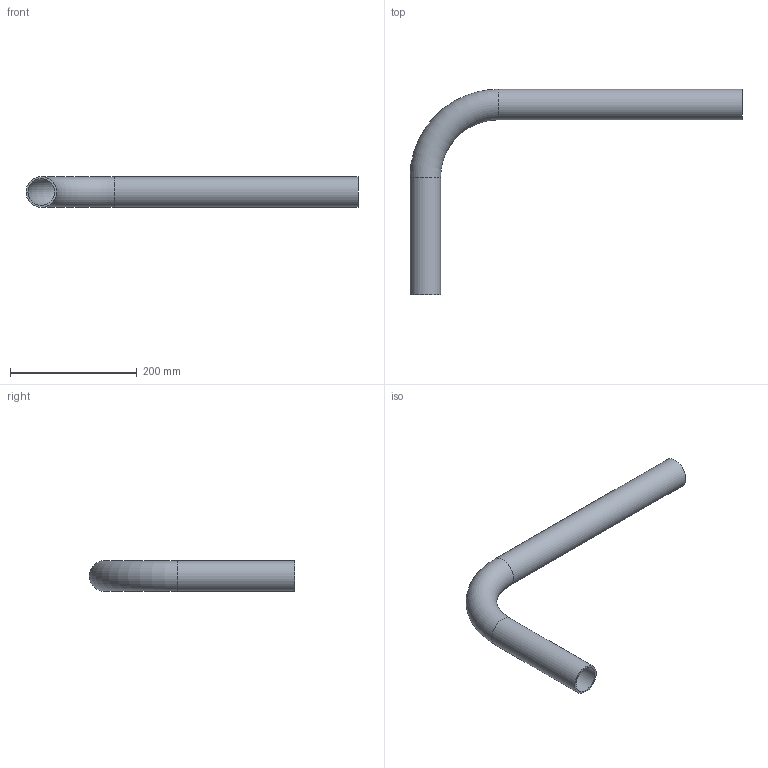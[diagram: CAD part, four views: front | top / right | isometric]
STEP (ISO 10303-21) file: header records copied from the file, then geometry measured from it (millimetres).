
FILE_DESCRIPTION (( 'STEP AP203' ), '1' );
FILE_NAME ('TK048.L.0300.0500.STEP', '2026-07-30T04:59:27', ( '' ), ( '' ), 'SwSTEP 2.0', 'SolidWorks 2022', '' );
FILE_SCHEMA (( 'CONFIG_CONTROL_DESIGN' ));
Length unit declared in the file: millimetre
Products named in the file (1): TK048.L.0300.0500
Bounding box: 524.15 x 324.15 x 48.3 mm (x, y, z)
Volume: 320480.7 mm3; surface area: 214507.7 mm2
Topology: 1 solids, 1 shells, 8 faces, 14 edges, 8 vertices
Faces by surface type: cylinder 4, torus 2, plane 2
Full cylindrical faces by diameter (mm): 42.3 x2, 48.3 x2
Entity records: 245 total; most frequent: DIRECTION 34, CARTESIAN_POINT 25, AXIS2_PLACEMENT_3D 17, EDGE_LOOP 16, ORIENTED_EDGE 16, FACE_OUTER_BOUND 14, EDGE_CURVE 8, PERSON_AND_ORGANIZATION 8
